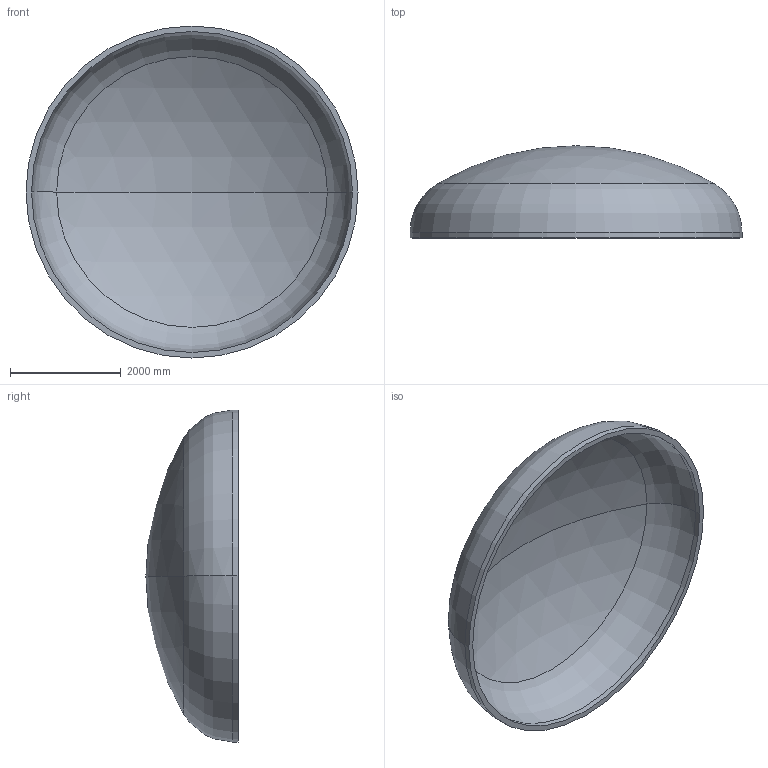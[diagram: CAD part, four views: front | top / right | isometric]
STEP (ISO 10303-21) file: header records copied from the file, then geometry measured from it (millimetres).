
FILE_DESCRIPTION (( 'STEP AP203' ), '1' );
FILE_NAME ('DIN 28013 Korbbogenform_-_Boden DIN 28013 - 6000 x 100 - I - s=100.step', '2016-07-04T10:38:48', ( '' ), ( '' ), 'SwSTEP 2.0', 'SolidWorks 2013', '' );
FILE_SCHEMA (( 'CONFIG_CONTROL_DESIGN' ));
Length unit declared in the file: millimetre
Products named in the file (1): DIN 28013 Korbbogenform_-_Boden DIN 28013 - 6000 x 100 - I - s=100
Bounding box: 6000 x 1666.08 x 6000 mm (x, y, z)
Volume: 4016958218.1 mm3; surface area: 82213618.1 mm2
Topology: 1 solids, 1 shells, 13 faces, 24 edges, 14 vertices
Faces by surface type: torus 4, cylinder 4, sphere 4, plane 1
Entity records: 407 total; most frequent: DIRECTION 72, CARTESIAN_POINT 52, ORIENTED_EDGE 48, AXIS2_PLACEMENT_3D 34, EDGE_CURVE 24, CIRCLE 20, EDGE_LOOP 14, VERTEX_POINT 14
